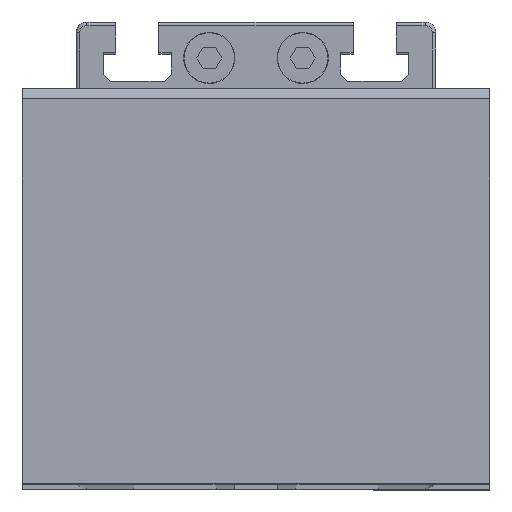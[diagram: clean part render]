
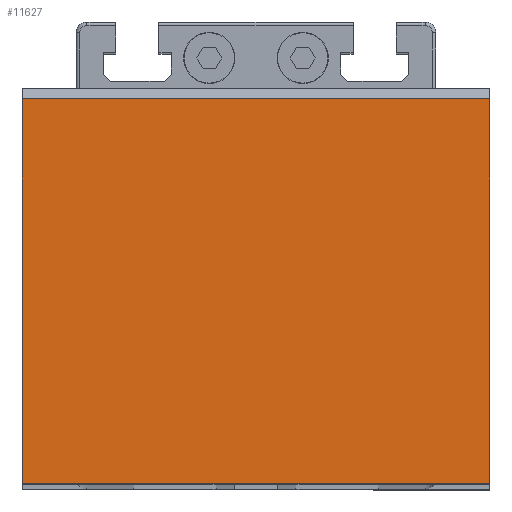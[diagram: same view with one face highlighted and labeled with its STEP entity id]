
A CAD part, top view. The second image highlights one B-rep face of the part: STEP entity #11627.
In plain terms, the highlighted planar face has unit normal (0, 0, 1).
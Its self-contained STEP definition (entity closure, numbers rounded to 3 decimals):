
#22 = ORIENTED_EDGE ( 'NONE', *, *, #8926, .T. ) ;
#52 = DIRECTION ( 'NONE',  ( -1., 0., 0. ) ) ;
#498 = DIRECTION ( 'NONE',  ( 0., -1., 0. ) ) ;
#648 = FACE_OUTER_BOUND ( 'NONE', #1052, .T. ) ;
#802 = ORIENTED_EDGE ( 'NONE', *, *, #9060, .T. ) ;
#1052 = EDGE_LOOP ( 'NONE', ( #6447, #22, #802, #10843 ) ) ;
#1495 = CARTESIAN_POINT ( 'NONE',  ( 0., 107., 55. ) ) ;
#1957 = CARTESIAN_POINT ( 'NONE',  ( 130., 0., 55. ) ) ;
#2575 = CARTESIAN_POINT ( 'NONE',  ( 0., 0., 55. ) ) ;
#2794 = DIRECTION ( 'NONE',  ( 0., -1., 0. ) ) ;
#4693 = PLANE ( 'NONE',  #9184 ) ;
#4820 = CARTESIAN_POINT ( 'NONE',  ( 130., 0., 55. ) ) ;
#4895 = VERTEX_POINT ( 'NONE', #1495 ) ;
#5599 = DIRECTION ( 'NONE',  ( 0., 0., -1. ) ) ;
#5658 = DIRECTION ( 'NONE',  ( -1., 0., 0. ) ) ;
#5738 = VECTOR ( 'NONE', #6038, 1000. ) ;
#5741 = CARTESIAN_POINT ( 'NONE',  ( 0., 0., 55. ) ) ;
#5821 = VERTEX_POINT ( 'NONE', #9748 ) ;
#6038 = DIRECTION ( 'NONE',  ( -1., 0., 0. ) ) ;
#6164 = CARTESIAN_POINT ( 'NONE',  ( 130., 0., 55. ) ) ;
#6207 = CARTESIAN_POINT ( 'NONE',  ( 130., 107., 55. ) ) ;
#6447 = ORIENTED_EDGE ( 'NONE', *, *, #8747, .F. ) ;
#6455 = VERTEX_POINT ( 'NONE', #4820 ) ;
#7080 = VECTOR ( 'NONE', #2794, 1000. ) ;
#7550 = VECTOR ( 'NONE', #498, 1000. ) ;
#7805 = EDGE_CURVE ( 'NONE', #6455, #9684, #11814, .T. ) ;
#8328 = LINE ( 'NONE', #6207, #5738 ) ;
#8747 = EDGE_CURVE ( 'NONE', #5821, #6455, #10130, .T. ) ;
#8926 = EDGE_CURVE ( 'NONE', #5821, #4895, #8328, .T. ) ;
#9060 = EDGE_CURVE ( 'NONE', #4895, #9684, #9974, .T. ) ;
#9184 = AXIS2_PLACEMENT_3D ( 'NONE', #1957, #5599, #52 ) ;
#9684 = VERTEX_POINT ( 'NONE', #5741 ) ;
#9748 = CARTESIAN_POINT ( 'NONE',  ( 130., 107., 55. ) ) ;
#9974 = LINE ( 'NONE', #2575, #7080 ) ;
#10130 = LINE ( 'NONE', #12105, #7550 ) ;
#10843 = ORIENTED_EDGE ( 'NONE', *, *, #7805, .F. ) ;
#11627 = ADVANCED_FACE ( 'NONE', ( #648 ), #4693, .F. ) ;
#11814 = LINE ( 'NONE', #6164, #12092 ) ;
#12092 = VECTOR ( 'NONE', #5658, 1000. ) ;
#12105 = CARTESIAN_POINT ( 'NONE',  ( 130., 0., 55. ) ) ;
